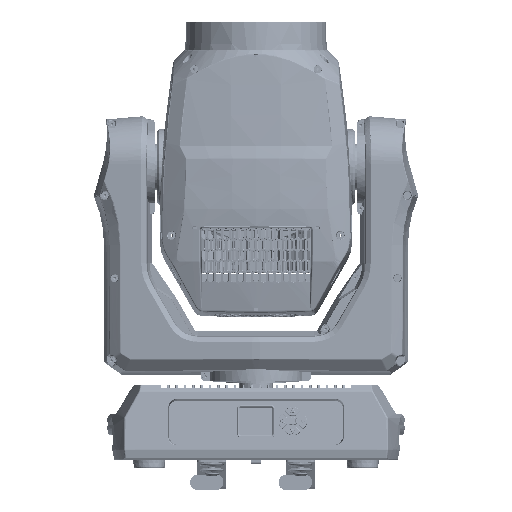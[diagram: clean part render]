
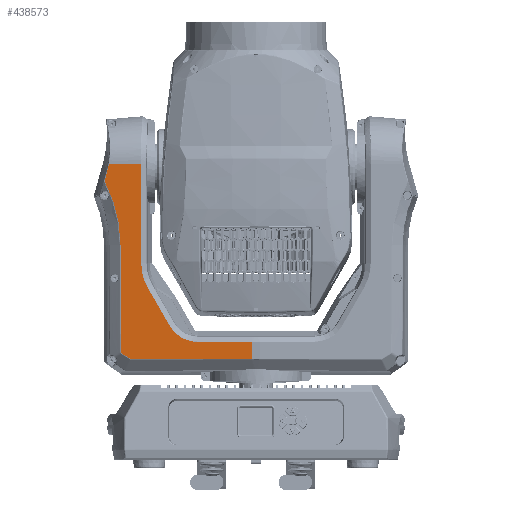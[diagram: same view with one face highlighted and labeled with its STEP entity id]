
A CAD part, top view. The second image highlights one B-rep face of the part: STEP entity #438573.
In plain terms, the highlighted planar face has unit normal (-0.07, -0.035, 0.997).
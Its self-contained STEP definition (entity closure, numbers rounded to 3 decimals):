
#415675=CARTESIAN_POINT('',(-103.273,42.808,
59.436));
#415676=CARTESIAN_POINT('',(-102.653,41.738,
59.442));
#415677=CARTESIAN_POINT('',(-101.326,39.678,
59.462));
#415678=CARTESIAN_POINT('',(-99.077,36.827,
59.52));
#415679=CARTESIAN_POINT('',(-96.567,34.2,
59.603));
#415680=CARTESIAN_POINT('',(-93.83,31.831,
59.712));
#415681=CARTESIAN_POINT('',(-90.895,29.74,
59.844));
#415682=CARTESIAN_POINT('',(-87.778,27.935,
59.999));
#415683=CARTESIAN_POINT('',(-84.501,26.428,
60.175));
#415684=CARTESIAN_POINT('',(-81.085,25.236,
60.372));
#415685=CARTESIAN_POINT('',(-77.56,24.368,
60.588));
#415686=CARTESIAN_POINT('',(-73.97,23.839,
60.821));
#415687=CARTESIAN_POINT('',(-71.518,23.717,
60.988));
#415688=CARTESIAN_POINT('',(-70.278,23.713,
61.075));
#415690=DIRECTION('',(0.998,-0.002,0.07));
#415691=VECTOR('',#415690,65.847);
#415692=CARTESIAN_POINT('',(-70.278,23.713,
61.075));
#415693=LINE('',#415692,#415691);
#415694=DIRECTION('',(-0.002,0.999,0.035));
#415695=VECTOR('',#415694,19.997);
#415696=CARTESIAN_POINT('',(-4.543,3.567,
64.966));
#415697=LINE('',#415696,#415695);
#415698=DIRECTION('',(-0.998,-0.002,
-0.07));
#415699=VECTOR('',#415698,145.354);
#415700=CARTESIAN_POINT('',(-4.543,3.567,
64.966));
#415701=LINE('',#415700,#415699);
#415702=DIRECTION('',(-0.848,0.528,-0.041));
#415703=VECTOR('',#415702,11.825);
#415704=CARTESIAN_POINT('',(-150.78,3.551,
54.739));
#415705=LINE('',#415704,#415703);
#415706=DIRECTION('',(-0.003,0.999,0.035));
#415707=VECTOR('',#415706,128.06);
#415708=CARTESIAN_POINT('',(-161.853,11.698,
54.249));
#415709=LINE('',#415708,#415707);
#415710=CARTESIAN_POINT('',(-324.774,139.667,
47.34));
#415711=DIRECTION('',(-0.07,-0.035,0.997));
#415712=DIRECTION('',(0.998,0.,0.07));
#415713=AXIS2_PLACEMENT_3D('',#415710,#415711,#415712);
#415715=DIRECTION('',(0.265,0.963,0.052));
#415716=VECTOR('',#415715,12.747);
#415717=CARTESIAN_POINT('',(-181.357,216.001,
60.038));
#415718=LINE('',#415717,#415716);
#415719=CARTESIAN_POINT('',(-177.976,228.274,
60.704));
#415720=CARTESIAN_POINT('',(-177.74,229.132,
60.751));
#415721=CARTESIAN_POINT('',(-177.288,230.853,
60.843));
#415722=CARTESIAN_POINT('',(-176.673,233.451,
60.977));
#415723=CARTESIAN_POINT('',(-176.305,235.192,
61.063));
#415724=CARTESIAN_POINT('',(-176.131,236.065,
61.106));
#415726=DIRECTION('',(0.997,0.016,0.07));
#415727=VECTOR('',#415726,38.702);
#415728=CARTESIAN_POINT('',(-176.131,236.065,
61.106));
#415729=LINE('',#415728,#415727);
#415730=DIRECTION('',(0.001,-0.999,-0.035));
#415731=VECTOR('',#415730,119.297);
#415732=CARTESIAN_POINT('',(-137.53,236.674,
63.827));
#415733=LINE('',#415732,#415731);
#415734=DIRECTION('',(0.5,-0.866,0.005));
#415735=VECTOR('',#415734,52.644);
#415736=CARTESIAN_POINT('',(-129.587,88.404,
59.192));
#415737=LINE('',#415736,#415735);
#415772=CARTESIAN_POINT('',(-137.384,117.449,
59.663));
#415773=CARTESIAN_POINT('',(-137.382,115.998,
59.613));
#415774=CARTESIAN_POINT('',(-137.268,113.106,
59.519));
#415775=CARTESIAN_POINT('',(-136.772,108.784,
59.403));
#415776=CARTESIAN_POINT('',(-135.957,104.513,
59.31));
#415777=CARTESIAN_POINT('',(-134.83,100.313,
59.242));
#415778=CARTESIAN_POINT('',(-133.396,96.208,
59.199));
#415779=CARTESIAN_POINT('',(-131.662,92.22,
59.18));
#415780=CARTESIAN_POINT('',(-130.311,89.66,
59.185));
#415781=CARTESIAN_POINT('',(-129.587,88.404,
59.192));
#415808=CARTESIAN_POINT('',(-149.542,3.213,
54.814));
#415809=CARTESIAN_POINT('',(-149.7,3.214,
54.803));
#415810=CARTESIAN_POINT('',(-150.002,3.24,
54.783));
#415811=CARTESIAN_POINT('',(-150.422,3.359,
54.758));
#415812=CARTESIAN_POINT('',(-150.666,3.48,
54.745));
#415813=CARTESIAN_POINT('',(-150.78,3.551,
54.739));
#416331=CARTESIAN_POINT('',(-160.812,9.793,
54.256));
#416332=CARTESIAN_POINT('',(-160.917,9.859,
54.251));
#416333=CARTESIAN_POINT('',(-161.112,10.006,
54.243));
#416334=CARTESIAN_POINT('',(-161.367,10.277,
54.235));
#416335=CARTESIAN_POINT('',(-161.575,10.593,
54.231));
#416336=CARTESIAN_POINT('',(-161.73,10.937,
54.232));
#416337=CARTESIAN_POINT('',(-161.829,11.319,
54.239));
#416338=CARTESIAN_POINT('',(-161.852,11.564,
54.245));
#416339=CARTESIAN_POINT('',(-161.853,11.698,
54.249));
#421195=VERTEX_POINT('',#415772);
#421196=VERTEX_POINT('',#415781);
#421197=VERTEX_POINT('',#415675);
#421198=VERTEX_POINT('',#415688);
#421199=CARTESIAN_POINT('',(-4.592,23.552,
65.662));
#421200=VERTEX_POINT('',#421199);
#421201=CARTESIAN_POINT('',(-4.543,3.567,
64.966));
#421202=VERTEX_POINT('',#421201);
#421203=CARTESIAN_POINT('',(-149.542,3.213,
54.814));
#421204=VERTEX_POINT('',#421203);
#421205=VERTEX_POINT('',#415813);
#421206=CARTESIAN_POINT('',(-160.812,9.793,
54.256));
#421207=VERTEX_POINT('',#421206);
#421208=VERTEX_POINT('',#416339);
#421209=CARTESIAN_POINT('',(-162.207,139.68,
58.705));
#421210=VERTEX_POINT('',#421209);
#421211=CARTESIAN_POINT('',(-181.357,216.,
60.038));
#421212=VERTEX_POINT('',#421211);
#421213=CARTESIAN_POINT('',(-177.976,228.274,
60.704));
#421214=VERTEX_POINT('',#421213);
#421215=VERTEX_POINT('',#415724);
#421216=CARTESIAN_POINT('',(-137.53,236.674,
63.827));
#421217=VERTEX_POINT('',#421216);
#438539=CARTESIAN_POINT('',(-4.534,0.,64.842));
#438540=DIRECTION('',(0.07,0.035,-0.997));
#438541=DIRECTION('',(-0.998,0.,-0.07));
#438542=AXIS2_PLACEMENT_3D('',#438539,#438540,#438541);
#438543=PLANE('',#438542);
#438545=ORIENTED_EDGE('',*,*,#438544,.T.);
#438547=ORIENTED_EDGE('',*,*,#438546,.T.);
#438548=ORIENTED_EDGE('',*,*,#438342,.F.);
#438549=ORIENTED_EDGE('',*,*,#438530,.T.);
#438551=ORIENTED_EDGE('',*,*,#438550,.T.);
#438553=ORIENTED_EDGE('',*,*,#438552,.T.);
#438555=ORIENTED_EDGE('',*,*,#438554,.T.);
#438557=ORIENTED_EDGE('',*,*,#438556,.T.);
#438559=ORIENTED_EDGE('',*,*,#438558,.T.);
#438561=ORIENTED_EDGE('',*,*,#438560,.T.);
#438563=ORIENTED_EDGE('',*,*,#438562,.T.);
#438564=ORIENTED_EDGE('',*,*,#436791,.T.);
#438566=ORIENTED_EDGE('',*,*,#438565,.T.);
#438568=ORIENTED_EDGE('',*,*,#438567,.T.);
#438570=ORIENTED_EDGE('',*,*,#438569,.T.);
#438571=EDGE_LOOP('',(#438545,#438547,#438548,#438549,#438551,#438553,#438555,
#438557,#438559,#438561,#438563,#438564,#438566,#438568,#438570));
#438572=FACE_OUTER_BOUND('',#438571,.F.);
#438573=ADVANCED_FACE('',(#438572),#438543,.F.);
#415689=B_SPLINE_CURVE_WITH_KNOTS('',3,(#415675,#415676,#415677,#415678,#415679,
#415680,#415681,#415682,#415683,#415684,#415685,#415686,#415687,#415688),
.UNSPECIFIED.,.F.,.F.,(4,1,1,1,1,1,1,1,1,1,1,4),(0.,0.091,
0.182,0.273,0.364,0.455,
0.545,0.636,0.727,0.818,
0.909,1.),.UNSPECIFIED.);
#415714=CIRCLE('',#415713,162.961);
#415725=B_SPLINE_CURVE_WITH_KNOTS('',3,(#415719,#415720,#415721,#415722,#415723,
#415724),.UNSPECIFIED.,.F.,.F.,(4,1,1,4),(0.,0.333,
0.667,1.),.UNSPECIFIED.);
#415782=B_SPLINE_CURVE_WITH_KNOTS('',3,(#415772,#415773,#415774,#415775,#415776,
#415777,#415778,#415779,#415780,#415781),.UNSPECIFIED.,.F.,.F.,(4,1,1,1,1,1,1,
4),(0.,0.143,0.286,0.429,
0.571,0.714,0.857,1.),.UNSPECIFIED.);
#415814=B_SPLINE_CURVE_WITH_KNOTS('',3,(#415808,#415809,#415810,#415811,#415812,
#415813),.UNSPECIFIED.,.F.,.F.,(4,1,1,4),(0.,0.333,
0.667,1.),.UNSPECIFIED.);
#416340=B_SPLINE_CURVE_WITH_KNOTS('',3,(#416331,#416332,#416333,#416334,#416335,
#416336,#416337,#416338,#416339),.UNSPECIFIED.,.F.,.F.,(4,1,1,1,1,1,4),(0.,
0.167,0.333,0.5,0.667,0.833,
1.),.UNSPECIFIED.);
#436791=EDGE_CURVE('',#421215,#421217,#415729,.T.);
#438342=EDGE_CURVE('',#421202,#421200,#415697,.T.);
#438530=EDGE_CURVE('',#421202,#421204,#415701,.T.);
#438544=EDGE_CURVE('',#421197,#421198,#415689,.T.);
#438546=EDGE_CURVE('',#421198,#421200,#415693,.T.);
#438550=EDGE_CURVE('',#421204,#421205,#415814,.T.);
#438552=EDGE_CURVE('',#421205,#421207,#415705,.T.);
#438554=EDGE_CURVE('',#421207,#421208,#416340,.T.);
#438556=EDGE_CURVE('',#421208,#421210,#415709,.T.);
#438558=EDGE_CURVE('',#421210,#421212,#415714,.T.);
#438560=EDGE_CURVE('',#421212,#421214,#415718,.T.);
#438562=EDGE_CURVE('',#421214,#421215,#415725,.T.);
#438565=EDGE_CURVE('',#421217,#421195,#415733,.T.);
#438567=EDGE_CURVE('',#421195,#421196,#415782,.T.);
#438569=EDGE_CURVE('',#421196,#421197,#415737,.T.);
